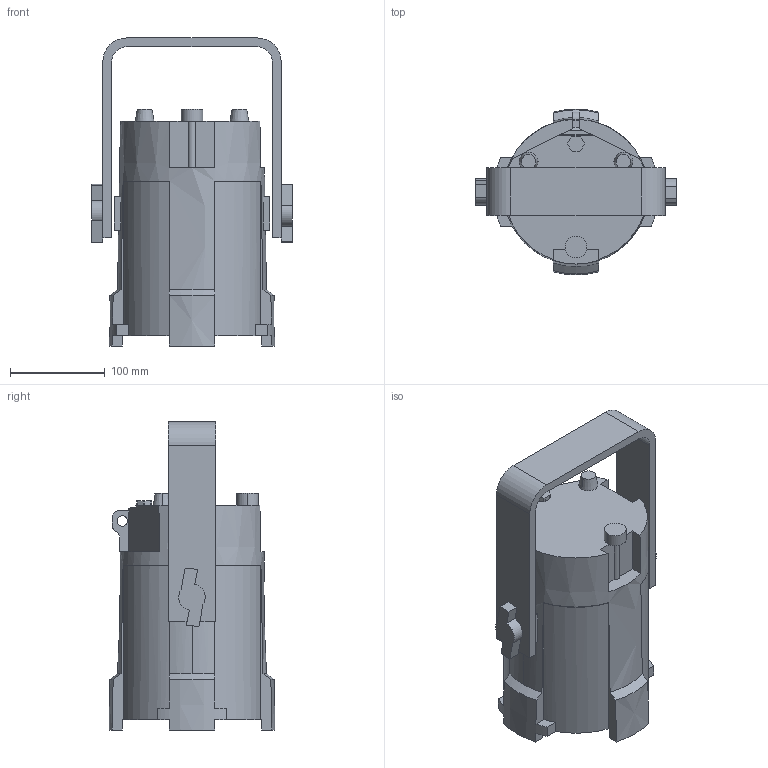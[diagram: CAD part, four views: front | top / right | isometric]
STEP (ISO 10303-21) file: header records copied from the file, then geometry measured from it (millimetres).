
FILE_DESCRIPTION((''),'2;1');
FILE_NAME('XPAR8Z-SIMPLY','2024-01-11T07:40:37',('MichaelSpatz'),(''),'CREO PARAMETRIC BY PTC INC, 2023073','CREO PARAMETRIC BY PTC INC, 2023073','');
FILE_SCHEMA(('AUTOMOTIVE_DESIGN { 1 0 10303 214 1 1 1 1 }'));
Length unit declared in the file: millimetre
Products named in the file (1): XPAR8Z-SIMPLY
Bounding box: 212 x 175.07 x 325 mm (x, y, z)
Volume: 4375291.1 mm3; surface area: 241270.6 mm2
Topology: 2 solids, 2 shells, 153 faces, 423 edges, 280 vertices
Faces by surface type: plane 107, cylinder 29, cone 16, extrusion 1
Entity records: 5686 total; most frequent: CARTESIAN_POINT 1231, DIRECTION 856, ORIENTED_EDGE 846, EDGE_CURVE 423, AXIS2_PLACEMENT_3D 289, VERTEX_POINT 280, VECTOR 275, LINE 274
